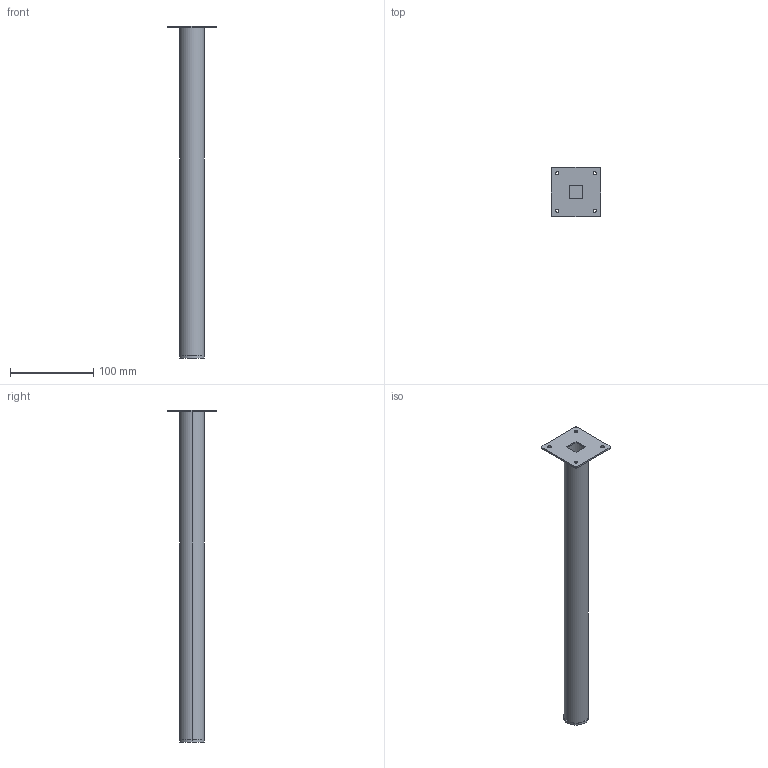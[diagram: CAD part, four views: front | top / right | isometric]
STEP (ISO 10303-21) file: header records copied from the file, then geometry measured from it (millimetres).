
FILE_DESCRIPTION( ( '' ), '1' );
FILE_NAME( 'D:/temp/hettich_stp/hettich/6.5_furniture_legs/table_legs/16872.stp', '2013-02-26T12:27:25', ( '' ), ( '' ), ' ', ' ', ' ' );
FILE_SCHEMA( ( 'automotive_design' ) );
Length unit declared in the file: millimetre
Products named in the file (1): 1
Bounding box: 60 x 60 x 400 mm (x, y, z)
Volume: 44670.1 mm3; surface area: 80949.6 mm2
Topology: 1 solids, 1 shells, 35 faces, 84 edges, 56 vertices
Faces by surface type: cylinder 20, plane 15
Entity records: 2058 total; most frequent: DIRECTION 196, STYLED_ITEM 176, PRESENTATION_STYLE_ASSIGNMENT 176, CARTESIAN_POINT 176, COLOUR_RGB 176, ORIENTED_EDGE 168, EDGE_CURVE 84, CURVE_STYLE 84
